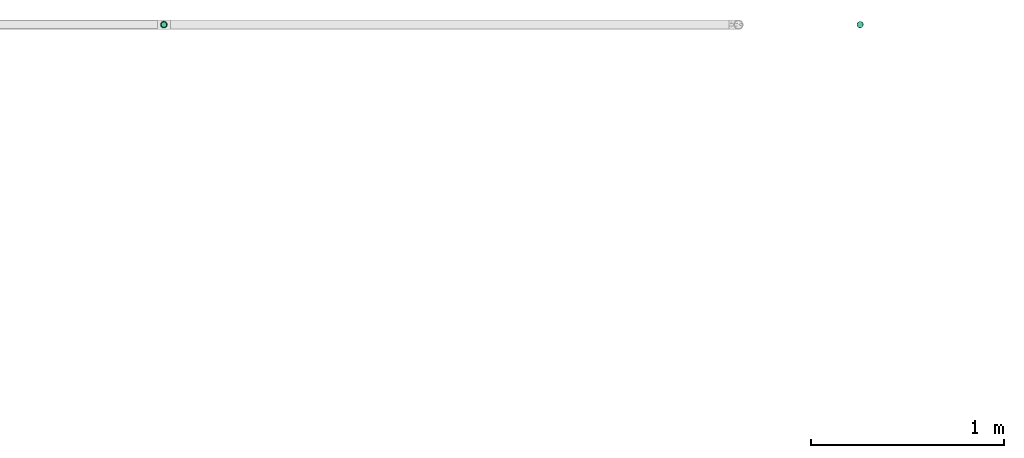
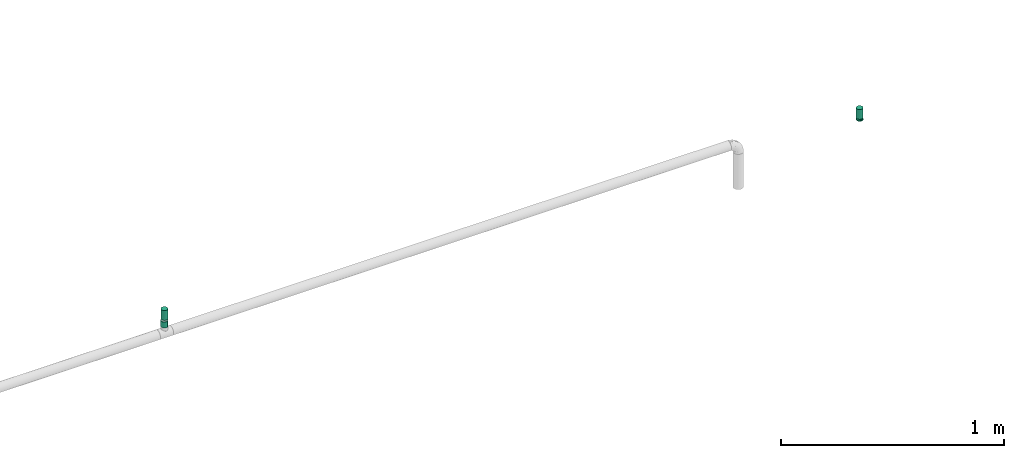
# One storey, part 5 of 14: 2 flow terminals, 1 flow fitting, 1 flow segment.
"""IFC2X3 building model written with IfcOpenShell, lengths in millimetres."""

from ifc_helpers import new_model, entity, si_unit, converted_unit, derived_unit, direction, frame, origin_with_axes, origin_2d_with_axis, place, context, subcontext, project, spatial, hollow_circle, extrude, open_shell, surface_model, source, transform, mapped, type_object, element, save


model = new_model("IFC2X3")

# Units and contexts
model_context = context("Model", 3, precision=0.01, world=frame((0.0, 4.29681676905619e-09, 0.0)), true_north=direction((4.01073788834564e-13, 1.0)))
plan_context = context("Plan", 3, precision=0.01, world=frame((0.0, 4.29681676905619e-09, 0.0)), true_north=direction((4.01073788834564e-13, 1.0)))
body_context = subcontext(model_context, "Body", "Model", "MODEL_VIEW")
ifc_project = project(units=[converted_unit("PLANEANGLEUNIT", "DEGREE", entity("IfcPositiveLengthMeasure", 0.0174532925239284), si_unit("PLANEANGLEUNIT", "RADIAN"), dimensions=[0, 0, 0, 0, 0, 0, 0]), si_unit("AREAUNIT", "SQUARE_METRE"), si_unit("LENGTHUNIT", "METRE", prefix="MILLI"), si_unit("MASSUNIT", "GRAM", prefix="KILO"), si_unit("POWERUNIT", "WATT"), si_unit("PRESSUREUNIT", "PASCAL", prefix="KILO"), si_unit("FORCEUNIT", "NEWTON", prefix="KILO"), si_unit("ELECTRICVOLTAGEUNIT", "VOLT"), si_unit("ELECTRICCURRENTUNIT", "AMPERE"), si_unit("THERMODYNAMICTEMPERATUREUNIT", "DEGREE_CELSIUS"), si_unit("TIMEUNIT", "SECOND"), si_unit("VOLUMEUNIT", "CUBIC_METRE"), derived_unit("LINEARVELOCITYUNIT", [(si_unit("LENGTHUNIT", "METRE"), 1), (si_unit("TIMEUNIT", "SECOND"), -1)]), derived_unit("VOLUMETRICFLOWRATEUNIT", [(si_unit("VOLUMEUNIT", "CUBIC_METRE"), 1), (si_unit("TIMEUNIT", "SECOND"), -1)]), derived_unit("THERMALTRANSMITTANCEUNIT", [(si_unit("POWERUNIT", "WATT"), 1), (si_unit("THERMODYNAMICTEMPERATUREUNIT", "KELVIN"), -1), (si_unit("AREAUNIT", "SQUARE_METRE"), -1)]), derived_unit("SOUNDPRESSUREUNIT", [(si_unit("PRESSUREUNIT", "PASCAL"), 1)])], contexts=[model_context, plan_context])

# Site, building, storey
site_placement = place(None, frame((0.0, -4.29681676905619e-09, 0.0), z_axis=(0.0, 0.0, 1.0), x_axis=(1.0, 0.0, 0.0)))
site = spatial("IfcSite", under=ifc_project, at=site_placement, CompositionType="ELEMENT")
building_placement = place(site_placement, frame((0.0, 4.29681676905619e-09, 0.0), z_axis=(0.0, 0.0, 1.0), x_axis=(1.0, 0.0, 0.0)))
building = spatial("IfcBuilding", under=site, at=building_placement, Name="mc-building", CompositionType="ELEMENT")
storey_placement = place(building_placement, frame((0.0, 0.0, 204000.0), z_axis=(0.0, 0.0, 1.0), x_axis=(1.0, 0.0, 0.0)))
storey = spatial("IfcBuildingStorey", under=building, at=storey_placement, Name="Nivå D", CompositionType="ELEMENT", Elevation=204000.0)

# Flow fitting
pipe_fitting_type = type_object("IfcPipeFittingType", Name="magi_pipe_fe_reducer_centric_short_NOR", PredefinedType="TRANSITION")
shared_shape_1 = source(origin_with_axes(), body_context, "Body", "SurfaceModel", [
    surface_model("IfcShellBasedSurfaceModel", [(14.4, 5.35, -9.26647), (14.4, 0.0, -10.7), (14.4, 2.76936, -10.33541), (14.4, 10.33541, -2.76936), (14.4, 7.56604, -7.56604), (14.4, -5.35, -9.26647), (14.4, 9.26647, -5.35), (14.4, -9.26647, 5.35), (14.4, -2.76936, -10.33541), (14.4, -7.56604, -7.56604), (14.4, -10.33541, -2.76936), (14.4, -9.26647, -5.35), (14.4, 10.33541, 2.76936), (14.4, 10.7, 0.0), (14.4, 9.26647, 5.35), (14.4, 7.56604, 7.56604), (14.4, 2.76936, 10.33541), (14.4, 0.0, 10.7), (14.4, 5.35, 9.26647), (14.4, -10.33541, 2.76936), (14.4, -10.7, 0.0), (14.4, -7.56604, 7.56604), (14.4, -2.76936, 10.33541), (14.4, -5.35, 9.26647), (12.4, 0.0, 10.7), (12.4, 2.76936, 10.33541), (12.4, 5.35, 9.26647), (12.4, 7.56604, 7.56604), (12.4, 9.26647, 5.35), (12.4, 10.33541, 2.76936), (12.4, -10.33541, 2.76936), (12.4, 10.33541, -2.76936), (12.4, -2.76936, 10.33541), (12.4, -7.56604, 7.56604), (12.4, -5.35, 9.26647), (12.4, -9.26647, 5.35), (12.4, -10.33541, -2.76936), (12.4, -10.7, 0.0), (12.4, 2.76936, -10.33541), (12.4, 9.26647, -5.35), (12.4, 7.56604, -7.56604), (12.4, 5.35, -9.26647), (12.4, -7.56604, -7.56604), (12.4, -9.26647, -5.35), (12.4, -5.35, -9.26647), (12.4, 0.0, -10.7), (12.4, -2.76936, -10.33541), (12.4, 10.7, 0.0), (-2.0, 11.9501, 11.9501), (-2.0, 0.0, 16.9), (-2.0, 4.37404, 16.32415), (-2.0, 8.45, 14.63583), (-2.0, 14.63583, 8.45), (-2.0, 16.32415, 4.37404), (-2.0, -16.32415, 4.37404), (-2.0, -8.45, 14.63583), (-2.0, -14.63583, 8.45), (-2.0, -11.9501, 11.9501), (-2.0, -4.37404, 16.32415), (-2.0, -16.32415, -4.37404), (-2.0, -16.9, 0.0), (-2.0, -8.45, -14.63583), (-2.0, 16.32415, -4.37404), (-2.0, 11.9501, -11.9501), (-2.0, 14.63583, -8.45), (-2.0, 8.45, -14.63583), (-2.0, 4.37404, -16.32415), (-2.0, 0.0, -16.9), (-2.0, -11.9501, -11.9501), (-2.0, -14.63583, -8.45), (-2.0, -4.37404, -16.32415), (-2.0, 16.9, 0.0), (0.0, 4.37404, -16.32415), (0.0, 8.45, -14.63583), (0.0, 11.9501, -11.9501), (0.0, 0.0, -16.9), (0.0, 16.32415, -4.37404), (0.0, 16.32415, 4.37404), (0.0, 14.63583, -8.45), (0.0, -8.45, -14.63583), (0.0, -4.37404, -16.32415), (0.0, -11.9501, -11.9501), (0.0, -16.32415, -4.37404), (0.0, -14.63583, -8.45), (0.0, -16.32415, 4.37404), (0.0, 16.9, 0.0), (0.0, 14.63583, 8.45), (0.0, 11.9501, 11.9501), (0.0, 4.37404, 16.32415), (0.0, 8.45, 14.63583), (0.0, 0.0, 16.9), (0.0, -14.63583, 8.45), (0.0, -16.9, 0.0), (0.0, -8.45, 14.63583), (0.0, -11.9501, 11.9501), (0.0, -4.37404, 16.32415), (12.4, 9.3625, -2.31662), (0.0, 14.42505, -5.97505), (0.0, 15.66253, -2.98753), (12.4, -6.6875, -6.94985), (0.0, -13.18758, -8.96258), (0.0, 2.98753, -15.66253), (12.4, 0.0, -9.26647), (12.4, 6.6875, -6.94985), (0.0, 8.96258, -13.18758), (12.4, -9.3625, -2.31662), (0.0, -15.66253, -2.98753), (0.0, -14.42505, -5.97505), (0.0, 5.97505, -14.42505), (0.0, -2.98753, -15.66253), (0.0, -8.96258, -13.18758), (0.0, 13.18758, -8.96258), (12.4, 8.025, -4.63324), (12.4, -2.675, -9.26647), (12.4, 2.675, -9.26647), (0.0, -5.97505, -14.42505), (12.4, -8.025, -4.63324), (12.4, -9.3625, 2.31662), (0.0, -14.42505, 5.97505), (0.0, -15.66253, 2.98753), (12.4, 6.6875, 6.94985), (0.0, 13.18758, 8.96258), (0.0, -2.98753, 15.66253), (12.4, 0.0, 9.26647), (12.4, -6.6875, 6.94985), (0.0, -8.96258, 13.18758), (12.4, 9.3625, 2.31662), (0.0, 15.66253, 2.98753), (0.0, 14.42505, 5.97505), (0.0, -5.97505, 14.42505), (0.0, 2.98753, 15.66253), (0.0, 8.96258, 13.18758), (0.0, -13.18758, 8.96258), (12.4, -8.025, 4.63324), (12.4, 2.675, 9.26647), (12.4, -2.675, 9.26647), (0.0, 5.97505, 14.42505), (12.4, 8.025, 4.63324)], [open_shell([[[0, 1, 2]], [[3, 0, 4]], [[5, 0, 3]], [[3, 4, 6]], [[7, 5, 3]], [[1, 5, 8]], [[1, 0, 5]], [[9, 10, 11]], [[10, 9, 5]], [[5, 7, 10]], [[12, 3, 13]], [[12, 14, 15]], [[3, 15, 7]], [[16, 17, 15]], [[16, 15, 18]], [[7, 15, 17]], [[10, 19, 20]], [[7, 19, 10]], [[21, 22, 23]], [[22, 21, 7]], [[17, 22, 7]], [[3, 12, 15]], [[24, 25, 26]], [[24, 26, 27]], [[27, 28, 29]], [[24, 27, 30]], [[31, 30, 27]], [[32, 33, 34]], [[33, 32, 30]], [[33, 30, 35]], [[32, 24, 30]], [[30, 36, 37]], [[31, 27, 29]], [[36, 30, 31]], [[38, 31, 39]], [[40, 41, 38]], [[40, 38, 39]], [[36, 31, 38]], [[36, 42, 43]], [[42, 36, 44]], [[44, 45, 46]], [[44, 36, 38]], [[38, 45, 44]], [[31, 29, 47]], [[36, 10, 37]], [[43, 11, 36]], [[5, 42, 44]], [[43, 42, 9]], [[8, 44, 46]], [[36, 11, 10]], [[10, 20, 37]], [[8, 5, 44]], [[9, 42, 5]], [[9, 11, 43]], [[1, 8, 46]], [[46, 45, 1]], [[38, 2, 45]], [[41, 0, 38]], [[6, 40, 39]], [[41, 40, 4]], [[3, 39, 31]], [[41, 4, 0]], [[0, 2, 38]], [[13, 3, 31]], [[6, 39, 3]], [[6, 4, 40]], [[47, 13, 31]], [[45, 2, 1]], [[29, 12, 47]], [[28, 14, 29]], [[18, 27, 26]], [[28, 27, 15]], [[16, 26, 25]], [[29, 14, 12]], [[12, 13, 47]], [[16, 18, 26]], [[15, 27, 18]], [[15, 14, 28]], [[17, 16, 25]], [[25, 24, 17]], [[32, 22, 24]], [[34, 23, 32]], [[7, 33, 35]], [[34, 33, 21]], [[19, 35, 30]], [[34, 21, 23]], [[23, 22, 32]], [[20, 19, 30]], [[7, 35, 19]], [[7, 21, 33]], [[37, 20, 30]], [[24, 22, 17]], [[48, 49, 50]], [[48, 50, 51]], [[48, 52, 53]], [[48, 53, 49]], [[49, 53, 54]], [[55, 56, 57]], [[55, 58, 49]], [[56, 55, 49]], [[49, 54, 56]], [[54, 59, 60]], [[54, 53, 61]], [[53, 62, 63]], [[63, 62, 64]], [[63, 65, 66]], [[61, 53, 63]], [[67, 63, 66]], [[59, 68, 69]], [[68, 59, 61]], [[61, 67, 70]], [[59, 54, 61]], [[63, 67, 61]], [[53, 71, 62]], [[72, 73, 74]], [[75, 72, 74]], [[74, 76, 77]], [[76, 74, 78]], [[74, 77, 79]], [[75, 79, 80]], [[75, 74, 79]], [[81, 82, 83]], [[82, 81, 79]], [[79, 84, 82]], [[77, 76, 85]], [[77, 86, 87]], [[77, 87, 88]], [[88, 84, 79]], [[88, 87, 89]], [[84, 88, 90]], [[90, 91, 84]], [[92, 82, 84]], [[91, 93, 94]], [[91, 90, 93]], [[93, 90, 95]], [[79, 77, 88]], [[59, 82, 60]], [[69, 83, 59]], [[79, 68, 61]], [[69, 68, 81]], [[80, 61, 70]], [[59, 83, 82]], [[82, 92, 60]], [[80, 79, 61]], [[81, 68, 79]], [[81, 83, 69]], [[75, 80, 70]], [[70, 67, 75]], [[66, 72, 67]], [[65, 73, 66]], [[78, 63, 64]], [[65, 63, 74]], [[76, 64, 62]], [[65, 74, 73]], [[73, 72, 66]], [[85, 76, 62]], [[78, 64, 76]], [[78, 74, 63]], [[71, 85, 62]], [[67, 72, 75]], [[53, 77, 71]], [[52, 86, 53]], [[89, 48, 51]], [[52, 48, 87]], [[88, 51, 50]], [[53, 86, 77]], [[77, 85, 71]], [[88, 89, 51]], [[87, 48, 89]], [[87, 86, 52]], [[90, 88, 50]], [[50, 49, 90]], [[58, 95, 49]], [[55, 93, 58]], [[91, 57, 56]], [[55, 57, 94]], [[84, 56, 54]], [[55, 94, 93]], [[93, 95, 58]], [[92, 84, 54]], [[91, 56, 84]], [[91, 94, 57]], [[60, 92, 54]], [[49, 95, 90]], [[26, 34, 47]], [[47, 34, 44]], [[44, 41, 47]], [[44, 34, 37]], [[90, 87, 92]], [[92, 94, 90]], [[87, 74, 92]], [[75, 92, 74]], [[81, 92, 75]], [[74, 87, 85]], [[96, 97, 98]], [[81, 99, 100]], [[101, 102, 75]], [[98, 85, 47]], [[74, 103, 104]], [[104, 103, 41]], [[105, 106, 107]], [[41, 108, 104]], [[102, 109, 75]], [[110, 99, 81]], [[47, 96, 98]], [[103, 111, 112]], [[109, 102, 113]], [[37, 92, 106]], [[102, 101, 114]], [[110, 115, 44]], [[96, 112, 97]], [[107, 116, 105]], [[37, 106, 105]], [[113, 115, 109]], [[44, 115, 113]], [[116, 107, 100]], [[108, 41, 114]], [[111, 103, 74]], [[111, 97, 112]], [[99, 110, 44]], [[116, 100, 99]], [[101, 108, 114]], [[117, 118, 119]], [[87, 120, 121]], [[122, 123, 90]], [[119, 92, 37]], [[94, 124, 125]], [[125, 124, 34]], [[126, 127, 128]], [[34, 129, 125]], [[123, 130, 90]], [[131, 120, 87]], [[37, 117, 119]], [[124, 132, 133]], [[130, 123, 134]], [[47, 85, 127]], [[123, 122, 135]], [[131, 136, 26]], [[117, 133, 118]], [[128, 137, 126]], [[47, 127, 126]], [[134, 136, 130]], [[26, 136, 134]], [[137, 128, 121]], [[129, 34, 135]], [[132, 124, 94]], [[132, 118, 133]], [[120, 131, 26]], [[137, 121, 120]], [[122, 129, 135]]])]),
])
flow_fitting_placement = place(storey_placement, frame((586600.0, 576802.46783, 5958.64799999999), z_axis=(0.0, 1.0, 0.0), x_axis=(0.0, 0.0, 1.0)))
element("IfcFlowFitting", 1, at=flow_fitting_placement, inside=storey, type_object=pipe_fitting_type, Name="magi_pipe_fe_reducer_centric_short_NOR", context=body_context, shape_type="MappedRepresentation", body=[
    mapped(shared_shape_1, transform((0.0, 0.0, 0.0), scale=1.0)),
])

# Flow segment
pipe_segment_type = type_object("IfcPipeSegmentType", Name="Stålrør normaltykke", PredefinedType="RIGIDSEGMENT")
shared_shape_2 = source(origin_with_axes(), body_context, "Body", "SweptSolid", [
    extrude(hollow_circle(Radius=16.9, WallThickness=2.0, at=origin_2d_with_axis()), frame((0.0, 0.0, 0.0), z_axis=(1.0, 0.0, 0.0), x_axis=(0.0, 1.0, 0.0)), (0.0, 0.0, 1.0), 32.3),
])
flow_segment_placement = place(storey_placement, frame((583000.0, 576802.46783, 6086.29999999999), z_axis=(0.0, 1.0, 0.0), x_axis=(0.0, 0.0, 1.0)))
element("IfcFlowSegment", 2, at=flow_segment_placement, inside=storey, type_object=pipe_segment_type, Name="Stålrør normaltykke", context=body_context, shape_type="MappedRepresentation", body=[
    mapped(shared_shape_2, transform((0.0, 0.0, 0.0), scale=1.0)),
])

# Flow terminals
fire_suppression_terminal_type = type_object("IfcFireSuppressionTerminalType", Name="SP-15-K80-68DGR-STD-STÅENDE", PredefinedType="NOTDEFINED")
shared_shape_3 = source(origin_with_axes(), body_context, "Body", "SurfaceModel", [
    surface_model("IfcShellBasedSurfaceModel", [(4.1411, -15.45481, 53.0), (8.0, -13.85641, 53.0), (11.31371, -11.31371, 53.0), (-8.0, -13.85641, 53.0), (15.45481, -4.1411, 53.0), (16.0, 0.0, 53.0), (13.85641, -8.0, 53.0), (0.0, -16.0, 53.0), (-4.1411, -15.45481, 53.0), (-13.85641, -8.0, 53.0), (-11.31371, -11.31371, 53.0), (-15.45481, -4.1411, 53.0), (15.45481, 4.1411, 53.0), (13.85641, 8.0, 53.0), (11.31371, 11.31371, 53.0), (-4.1411, 15.45481, 53.0), (8.0, 13.85641, 53.0), (4.1411, 15.45481, 53.0), (0.0, 16.0, 53.0), (-13.85641, 8.0, 53.0), (-15.45481, 4.1411, 53.0), (-16.0, 0.0, 53.0), (-11.31371, 11.31371, 53.0), (-8.0, 13.85641, 53.0), (0.0, 16.0, 0.0), (4.1411, 15.45481, 0.0), (8.0, 13.85641, 0.0), (-4.1411, 15.45481, 0.0), (11.31371, 11.31371, 0.0), (13.85641, 8.0, 0.0), (15.45481, 4.1411, 0.0), (-15.45481, -4.1411, 0.0), (-11.31371, 11.31371, 0.0), (-8.0, 13.85641, 0.0), (-13.85641, 8.0, 0.0), (-15.45481, 4.1411, 0.0), (-16.0, 0.0, 0.0), (4.1411, -15.45481, 0.0), (16.0, 0.0, 0.0), (15.45481, -4.1411, 0.0), (13.85641, -8.0, 0.0), (11.31371, -11.31371, 0.0), (8.0, -13.85641, 0.0), (-8.0, -13.85641, 0.0), (-13.85641, -8.0, 0.0), (-11.31371, -11.31371, 0.0), (0.0, -16.0, 0.0), (-4.1411, -15.45481, 0.0)], [open_shell([[[0, 1, 2]], [[3, 0, 2]], [[4, 5, 2]], [[4, 2, 6]], [[3, 2, 5]], [[7, 3, 8]], [[7, 0, 3]], [[3, 9, 10]], [[9, 3, 11]], [[5, 11, 3]], [[5, 12, 11]], [[12, 13, 14]], [[15, 12, 14]], [[16, 17, 18]], [[14, 16, 15]], [[18, 15, 16]], [[11, 19, 20]], [[21, 11, 20]], [[22, 15, 23]], [[15, 22, 19]], [[19, 11, 15]], [[11, 12, 15]], [[24, 25, 26]], [[27, 24, 26]], [[28, 29, 30]], [[27, 26, 28]], [[27, 28, 31]], [[27, 32, 33]], [[32, 27, 34]], [[34, 31, 35]], [[31, 34, 27]], [[35, 31, 36]], [[28, 30, 31]], [[37, 38, 39]], [[37, 39, 40]], [[41, 42, 37]], [[41, 37, 40]], [[38, 37, 43]], [[44, 43, 45]], [[43, 44, 31]], [[43, 46, 47]], [[43, 31, 38]], [[37, 46, 43]], [[38, 31, 30]], [[11, 31, 44]], [[45, 9, 44]], [[3, 43, 47]], [[45, 43, 10]], [[8, 47, 46]], [[31, 21, 36]], [[31, 11, 21]], [[44, 9, 11]], [[45, 10, 9]], [[3, 10, 43]], [[47, 8, 3]], [[46, 7, 8]], [[0, 37, 42]], [[41, 1, 42]], [[6, 40, 39]], [[41, 40, 2]], [[4, 39, 38]], [[37, 0, 7]], [[42, 1, 0]], [[41, 2, 1]], [[40, 6, 2]], [[4, 6, 39]], [[38, 5, 4]], [[37, 7, 46]], [[12, 38, 30]], [[13, 30, 29]], [[16, 26, 25]], [[17, 25, 24]], [[30, 13, 12]], [[12, 5, 38]], [[28, 14, 13]], [[28, 26, 14]], [[14, 26, 16]], [[25, 17, 16]], [[28, 13, 29]], [[24, 18, 17]], [[15, 27, 33]], [[32, 23, 33]], [[19, 34, 35]], [[32, 34, 22]], [[20, 35, 36]], [[27, 15, 18]], [[33, 23, 15]], [[32, 22, 23]], [[34, 19, 22]], [[20, 19, 35]], [[36, 21, 20]], [[27, 18, 24]]])]),
])
for number, where, z_axis, x_axis in (
    (3, (583000.0, 576802.46783, 6127.99984999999), (0.0, 0.0, 1.0), (1.0, 0.0, 0.0)),
    (4, (586600.0, 576802.46783, 5968.0), (0.0, 0.0, 1.0), (1.0, 0.0, 0.0)),
):
    element("IfcFlowTerminal", number, at=place(storey_placement, frame(where, z_axis=z_axis, x_axis=x_axis)), inside=storey, type_object=fire_suppression_terminal_type, Name="SP-15-K80-68DGR-STD-STÅENDE", context=body_context, shape_type="MappedRepresentation", body=[
        mapped(shared_shape_3, transform((0.0, 0.0, 0.0), scale=1.0)),
    ])

save(model, "model.ifc")
